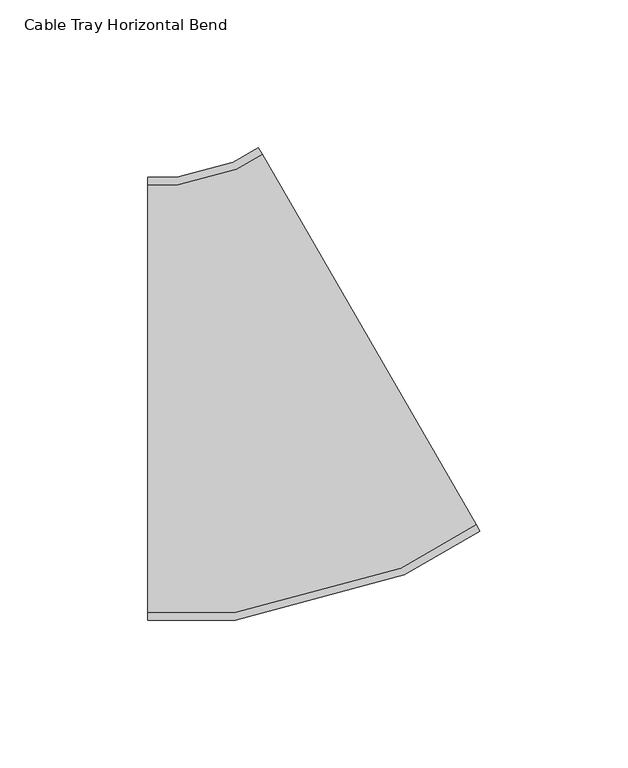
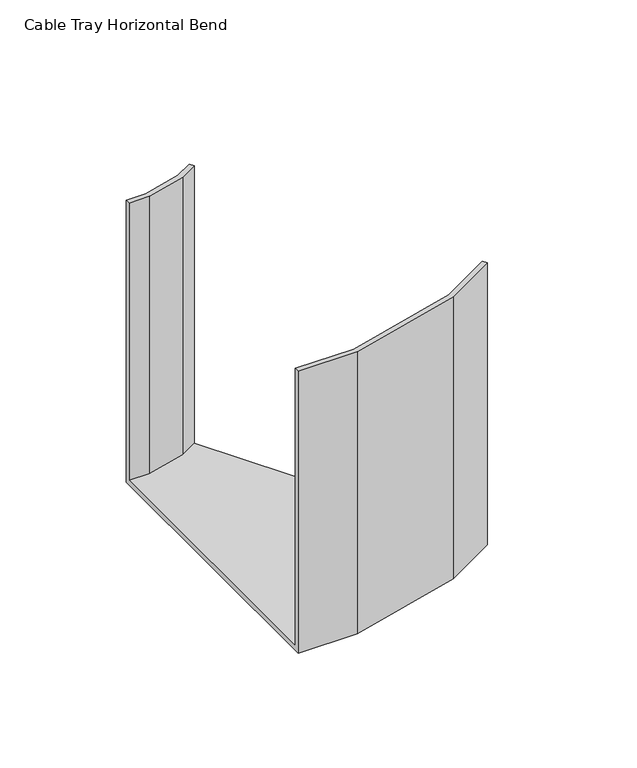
"""IFC4 building model written with IfcOpenShell, lengths in millimetres: cable carrier fitting geometry, Cable Tray Horizontal Bend : ELEC_ELV_TKG_N2402."""

from ifc_helpers import new_model, si_unit, origin, place, context, project, spatial, faceted_brep, source, transform, mapped, element, save


def cable_tray_horizontal_bend_72472c01(model_context):
    return source(origin(), model_context, "Body", "Brep", [
        faceted_brep([(-40.1923788, -75.0, -75.0), (-40.1923788, -75.0, 75.0), (-40.1923788, -72.46, 75.0), (-40.1923788, -72.46, -72.46), (-40.1923788, 72.46, -72.46), (-40.1923788, 72.46, 75.0), (-40.1923788, 75.0, 75.0), (-40.1923788, 75.0, -75.0), (72.3076211, -44.8557159, -75.0), (-2.6923789, 85.0480947, -75.0), (-2.6923789, 85.0480947, 75.0), (-1.4223789, 82.8483902, 75.0), (-1.4223789, 82.8483902, -72.46), (71.0376211, -42.6560114, -72.46), (71.0376211, -42.6560114, 75.0), (72.3076211, -44.8557159, 75.0), (-10.5705669, -75.0, -75.0), (-10.5705669, -75.0, 75.0), (46.6543795, -59.6666218, 75.0), (45.6739761, -57.2997187, 75.0), (-10.9049642, -72.46, 75.0), (-10.9049642, -72.46, -72.46), (45.6739761, -57.2997187, -72.46), (-10.263056, 77.7442229, -72.46), (-29.9840442, 72.46, -72.46), (-29.9840442, 72.46, 75.0), (-10.263056, 77.7442229, 75.0), (-11.2434594, 80.1111261, 75.0), (-30.3184415, 75.0, 75.0), (-30.3184415, 75.0, -75.0), (-11.2434594, 80.1111261, -75.0), (46.6543795, -59.6666218, -75.0)], [[[0, 1, 2, 3, 4, 5, 6, 7]], [[8, 9, 10, 11, 12, 13, 14, 15]], [[1, 0, 16, 17]], [[2, 1, 17, 18, 15, 14, 19, 20]], [[3, 2, 20, 21]], [[4, 3, 21, 22, 13, 12, 23, 24]], [[5, 4, 24, 25]], [[6, 5, 25, 26, 11, 10, 27, 28]], [[7, 6, 28, 29]], [[0, 7, 29, 30, 9, 8, 31, 16]], [[17, 16, 31, 18]], [[21, 20, 19, 22]], [[25, 24, 23, 26]], [[29, 28, 27, 30]], [[18, 31, 8, 15]], [[22, 19, 14, 13]], [[26, 23, 12, 11]], [[30, 27, 10, 9]]]),
    ])


if __name__ == "__main__":
    model = new_model("IFC4")
    model_context = context("Model", 3, world=origin())
    ifc_project = project(units=[si_unit("LENGTHUNIT", "METRE", prefix="MILLI")], contexts=[model_context])
    site = spatial("IfcSite", under=ifc_project)
    building = spatial("IfcBuilding", under=site)
    placement = place(None, origin())
    cable_tray_horizontal_bend_shape = cable_tray_horizontal_bend_72472c01(model_context)
    element("IfcCableCarrierFitting", 1, ObjectType="Cable Tray Horizontal Bend : ELEC_ELV_TKG_N2402", at=placement, inside=building, context=model_context, shape_type="MappedRepresentation", body=[
        mapped(cable_tray_horizontal_bend_shape, transform((0.0, 0.0, 0.0), x_axis=(1.0, 0.0, 0.0), y_axis=(0.0, 1.0, 0.0), z_axis=(0.0, 0.0, 1.0))),
    ])
    save(model, "model.ifc")
